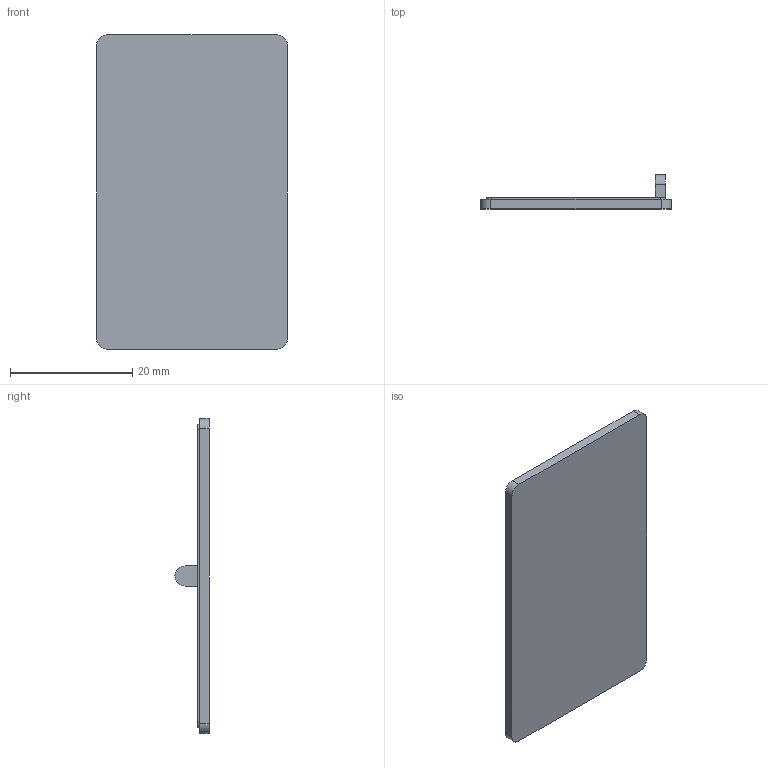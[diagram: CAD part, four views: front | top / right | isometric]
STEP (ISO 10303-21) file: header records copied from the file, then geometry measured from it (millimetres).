
FILE_DESCRIPTION (( 'STEP AP214' ), '1' );
FILE_NAME ('C-1302-N.STEP', '2010-03-29T15:07:00', ( 'steve began' ), ( 'Polycase' ), 'SwSTEP 2.0', 'SolidWorks 2009', '' );
FILE_SCHEMA (( 'AUTOMOTIVE_DESIGN' ));
Length unit declared in the file: inch
Products named in the file (1): C-1302-N
Bounding box: 31.11 x 5.59 x 51.31 mm (x, y, z)
Volume: 2998.3 mm3; surface area: 3526.8 mm2
Topology: 1 solids, 1 shells, 23 faces, 60 edges, 40 vertices
Faces by surface type: plane 14, cylinder 9
Entity records: 752 total; most frequent: DIRECTION 126, CARTESIAN_POINT 124, ORIENTED_EDGE 120, EDGE_CURVE 60, AXIS2_PLACEMENT_3D 42, VECTOR 42, LINE 42, VERTEX_POINT 40
